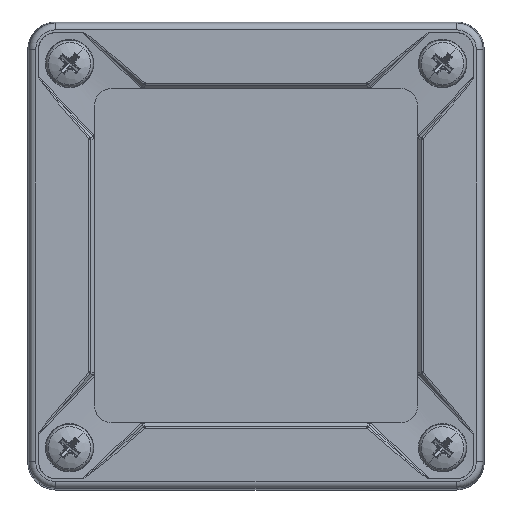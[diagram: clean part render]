
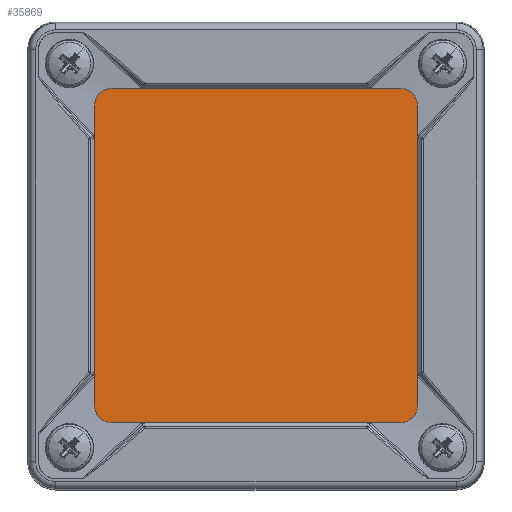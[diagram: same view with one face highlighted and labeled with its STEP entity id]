
A CAD part, top view. The second image highlights one B-rep face of the part: STEP entity #35869.
In plain terms, the highlighted planar face has unit normal (0, 0, 1).
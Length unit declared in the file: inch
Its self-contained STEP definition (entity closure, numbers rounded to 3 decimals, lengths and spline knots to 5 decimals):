
#325 = VERTEX_POINT ( 'NONE', #52866 ) ;
#496 = EDGE_CURVE ( 'NONE', #34844, #32191, #51207, .T. ) ;
#4168 = EDGE_CURVE ( 'NONE', #30688, #325, #52636, .T. ) ;
#4688 = VERTEX_POINT ( 'NONE', #61518 ) ;
#5491 = DIRECTION ( 'NONE',  ( 1., 0., 0. ) ) ;
#7429 = AXIS2_PLACEMENT_3D ( 'NONE', #30328, #41037, #51341 ) ;
#9565 = ORIENTED_EDGE ( 'NONE', *, *, #50160, .T. ) ;
#10836 = CARTESIAN_POINT ( 'NONE',  ( 1.02362, -1.1811, 0.53912 ) ) ;
#11222 = CARTESIAN_POINT ( 'NONE',  ( 1.14173, -1.06299, 0.53912 ) ) ;
#11938 = VERTEX_POINT ( 'NONE', #11222 ) ;
#12587 = CARTESIAN_POINT ( 'NONE',  ( -1.02362, -1.1811, 0.53912 ) ) ;
#13354 = CARTESIAN_POINT ( 'NONE',  ( -1.14173, 1.06299, 0.53912 ) ) ;
#14707 = ORIENTED_EDGE ( 'NONE', *, *, #4168, .T. ) ;
#15843 = PLANE ( 'NONE',  #60981 ) ;
#15980 = EDGE_CURVE ( 'NONE', #11938, #30688, #33845, .T. ) ;
#20858 = DIRECTION ( 'NONE',  ( 0., 0., 1. ) ) ;
#20990 = ORIENTED_EDGE ( 'NONE', *, *, #15980, .T. ) ;
#24020 = DIRECTION ( 'NONE',  ( 0., 0., 1. ) ) ;
#24225 = AXIS2_PLACEMENT_3D ( 'NONE', #62120, #24020, #35054 ) ;
#24553 = VERTEX_POINT ( 'NONE', #24896 ) ;
#24896 = CARTESIAN_POINT ( 'NONE',  ( -1.02362, -1.1811, 0.53912 ) ) ;
#26419 = CARTESIAN_POINT ( 'NONE',  ( 1.02362, 1.1811, 0.53912 ) ) ;
#26428 = DIRECTION ( 'NONE',  ( 0., 0., 1. ) ) ;
#26524 = CARTESIAN_POINT ( 'NONE',  ( -1.02362, 1.06299, 0.53912 ) ) ;
#26613 = VERTEX_POINT ( 'NONE', #10836 ) ;
#28478 = ORIENTED_EDGE ( 'NONE', *, *, #38736, .T. ) ;
#28569 = EDGE_LOOP ( 'NONE', ( #64698, #9565, #32327, #57861, #66307, #20990, #14707, #28478 ) ) ;
#30328 = CARTESIAN_POINT ( 'NONE',  ( 1.02362, -1.06299, 0.53912 ) ) ;
#30629 = EDGE_CURVE ( 'NONE', #24553, #26613, #50306, .T. ) ;
#30688 = VERTEX_POINT ( 'NONE', #49610 ) ;
#32191 = VERTEX_POINT ( 'NONE', #44152 ) ;
#32327 = ORIENTED_EDGE ( 'NONE', *, *, #70359, .T. ) ;
#32421 = CARTESIAN_POINT ( 'NONE',  ( -1.02362, 1.1811, 0.53912 ) ) ;
#32553 = FACE_OUTER_BOUND ( 'NONE', #28569, .T. ) ;
#32584 = VECTOR ( 'NONE', #52073, 39.37008 ) ;
#33482 = CARTESIAN_POINT ( 'NONE',  ( 1.14173, -1.06299, 0.53912 ) ) ;
#33845 = LINE ( 'NONE', #33482, #69173 ) ;
#33859 = CARTESIAN_POINT ( 'NONE',  ( -1.02362, 1.06299, 0.53912 ) ) ;
#34454 = EDGE_CURVE ( 'NONE', #26613, #11938, #47214, .T. ) ;
#34844 = VERTEX_POINT ( 'NONE', #32421 ) ;
#35054 = DIRECTION ( 'NONE',  ( 1., 0., 0. ) ) ;
#35694 = DIRECTION ( 'NONE',  ( 1., 0., 0. ) ) ;
#35869 = ADVANCED_FACE ( 'NONE', ( #32553 ), #15843, .T. ) ;
#37541 = DIRECTION ( 'NONE',  ( 0., 0., 1. ) ) ;
#38736 = EDGE_CURVE ( 'NONE', #325, #34844, #64185, .T. ) ;
#39842 = AXIS2_PLACEMENT_3D ( 'NONE', #26524, #20858, #42571 ) ;
#41037 = DIRECTION ( 'NONE',  ( 0., 0., 1. ) ) ;
#42137 = CARTESIAN_POINT ( 'NONE',  ( -1.02362, -1.06299, 0.53912 ) ) ;
#42571 = DIRECTION ( 'NONE',  ( 1., 0., 0. ) ) ;
#44152 = CARTESIAN_POINT ( 'NONE',  ( -1.14173, 1.06299, 0.53912 ) ) ;
#44201 = CIRCLE ( 'NONE', #59012, 0.11811 ) ;
#47214 = CIRCLE ( 'NONE', #7429, 0.11811 ) ;
#48643 = LINE ( 'NONE', #13354, #58636 ) ;
#49610 = CARTESIAN_POINT ( 'NONE',  ( 1.14173, 1.06299, 0.53912 ) ) ;
#50160 = EDGE_CURVE ( 'NONE', #32191, #4688, #48643, .T. ) ;
#50306 = LINE ( 'NONE', #12587, #66840 ) ;
#51207 = CIRCLE ( 'NONE', #39842, 0.11811 ) ;
#51341 = DIRECTION ( 'NONE',  ( 1., 0., 0. ) ) ;
#52073 = DIRECTION ( 'NONE',  ( -1., 0., 0. ) ) ;
#52636 = CIRCLE ( 'NONE', #24225, 0.11811 ) ;
#52866 = CARTESIAN_POINT ( 'NONE',  ( 1.02362, 1.1811, 0.53912 ) ) ;
#56629 = DIRECTION ( 'NONE',  ( 0., 1., 0. ) ) ;
#57861 = ORIENTED_EDGE ( 'NONE', *, *, #30629, .T. ) ;
#58636 = VECTOR ( 'NONE', #67151, 39.37008 ) ;
#59012 = AXIS2_PLACEMENT_3D ( 'NONE', #42137, #26428, #35694 ) ;
#60981 = AXIS2_PLACEMENT_3D ( 'NONE', #33859, #37541, #5491 ) ;
#61373 = DIRECTION ( 'NONE',  ( 1., 0., 0. ) ) ;
#61518 = CARTESIAN_POINT ( 'NONE',  ( -1.14173, -1.06299, 0.53912 ) ) ;
#62120 = CARTESIAN_POINT ( 'NONE',  ( 1.02362, 1.06299, 0.53912 ) ) ;
#64185 = LINE ( 'NONE', #26419, #32584 ) ;
#64698 = ORIENTED_EDGE ( 'NONE', *, *, #496, .T. ) ;
#66307 = ORIENTED_EDGE ( 'NONE', *, *, #34454, .T. ) ;
#66840 = VECTOR ( 'NONE', #61373, 39.37008 ) ;
#67151 = DIRECTION ( 'NONE',  ( 0., -1., 0. ) ) ;
#69173 = VECTOR ( 'NONE', #56629, 39.37008 ) ;
#70359 = EDGE_CURVE ( 'NONE', #4688, #24553, #44201, .T. ) ;
